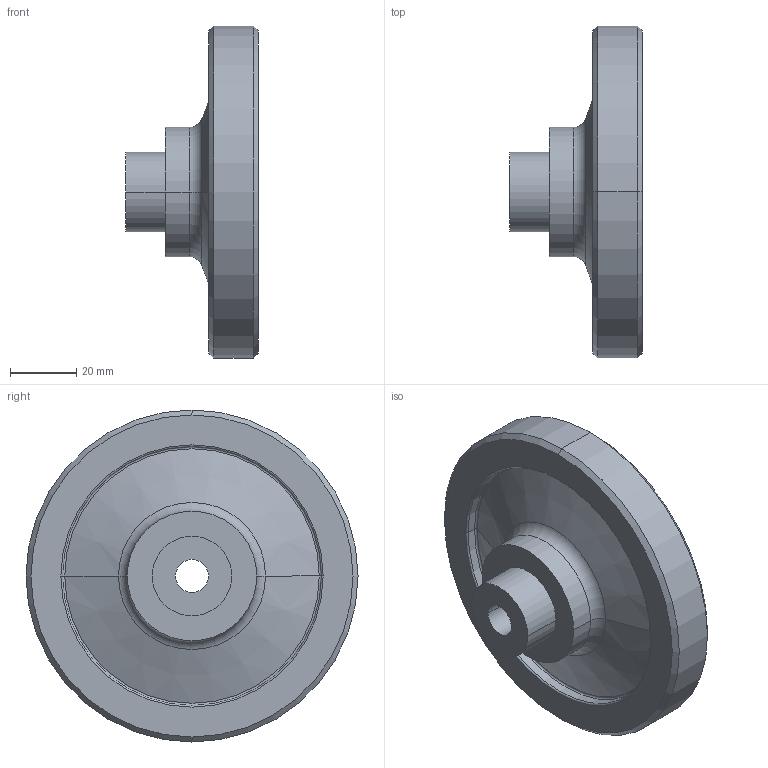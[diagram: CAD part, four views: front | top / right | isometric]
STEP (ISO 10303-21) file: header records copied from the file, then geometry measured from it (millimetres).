
FILE_DESCRIPTION (( 'STEP AP214' ), '1' );
FILE_NAME ('520.2-100-B10-A.step', '2020-05-28T15:31:49', ( '' ), ( '' ), 'SwSTEP 2.0', 'SolidWorks 2019', '' );
FILE_SCHEMA (( 'AUTOMOTIVE_DESIGN' ));
Length unit declared in the file: millimetre
Products named in the file (1): 520.2-100-B10-A
Bounding box: 40 x 100 x 100 mm (x, y, z)
Volume: 107738.7 mm3; surface area: 24926.1 mm2
Topology: 1 solids, 1 shells, 45 faces, 92 edges, 54 vertices
Faces by surface type: cylinder 16, cone 12, torus 10, plane 7
Entity records: 1331 total; most frequent: DIRECTION 248, CARTESIAN_POINT 192, ORIENTED_EDGE 184, AXIS2_PLACEMENT_3D 110, EDGE_CURVE 92, CIRCLE 64, VERTEX_POINT 54, EDGE_LOOP 52
